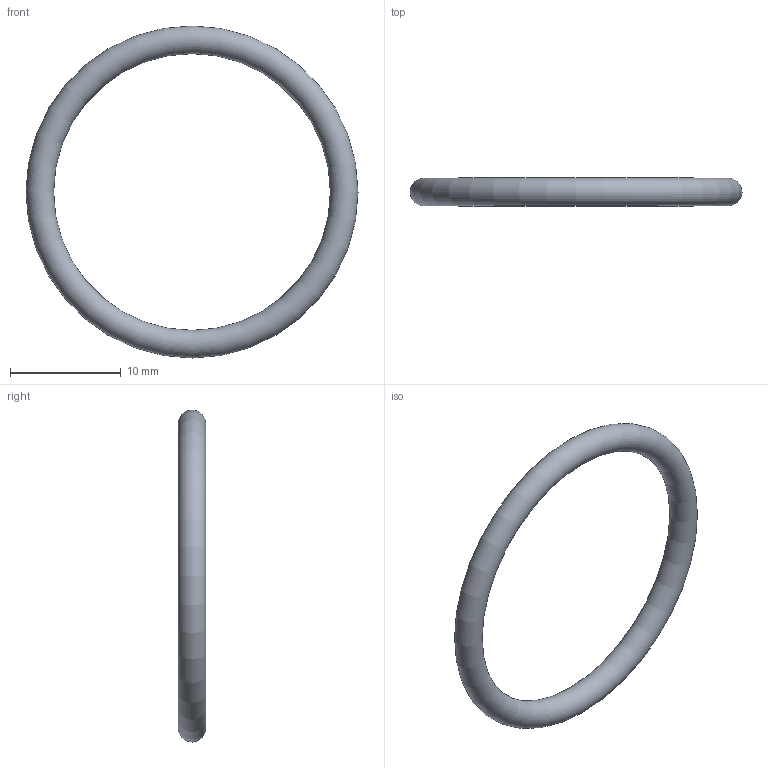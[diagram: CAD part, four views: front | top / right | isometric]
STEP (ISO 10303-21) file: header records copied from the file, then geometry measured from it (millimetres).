
FILE_DESCRIPTION( ( 'STEP AP203' ), '1' );
FILE_NAME( 'C:/Temp/Ganter_Step_05_03_2020/data/3_5/or638/O-Ring OR638-25.00-2.50-70.stp', '2020-03-12T13:44:28', ( 'License CC BY-ND 4.0' ), ( 'CADENAS' ), ' ', 'PARTsolutions', ' ' );
FILE_SCHEMA( ( 'CONFIG_CONTROL_DESIGN' ) );
Length unit declared in the file: millimetre
Products named in the file (1): _O-Ring OR638-25.00-2.50-70
Bounding box: 30 x 2.5 x 30 mm (x, y, z)
Volume: 424.1 mm3; surface area: 678.5 mm2
Topology: 1 solids, 1 shells, 1 faces, 2 edges, 1 vertices
Faces by surface type: torus 1
Entity records: 62 total; most frequent: CC_DESIGN_PERSON_AND_ORGANIZATION_ASSIGNMENT 5, PERSON_AND_ORGANIZATION_ROLE 4, DIRECTION 4, CARTESIAN_POINT 3, DATE_TIME_ROLE 2, CC_DESIGN_DATE_AND_TIME_ASSIGNMENT 2, AXIS2_PLACEMENT_3D 2, DIMENSIONAL_EXPONENTS 2
